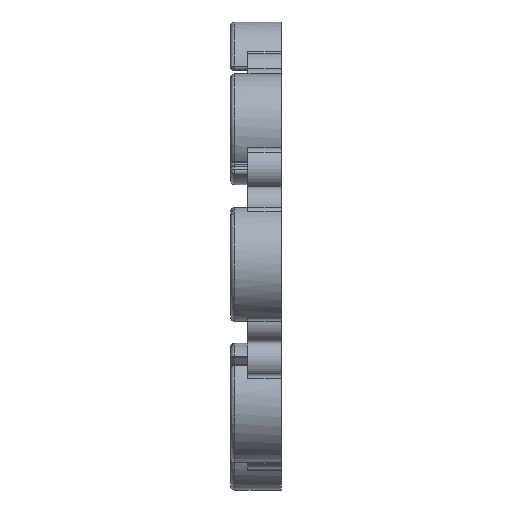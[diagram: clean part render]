
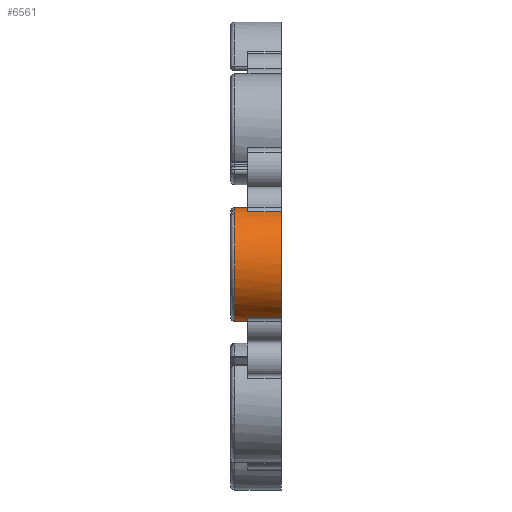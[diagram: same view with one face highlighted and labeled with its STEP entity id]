
A CAD part, left-side view. The second image highlights one B-rep face of the part: STEP entity #6561.
In plain terms, the highlighted cylindrical face has radius 10.763 mm (diameter 21.527 mm), a partial arc.
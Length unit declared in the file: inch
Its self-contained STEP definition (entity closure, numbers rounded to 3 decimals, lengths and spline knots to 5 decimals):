
#73 = CIRCLE ( 'NONE', #10833, 0.42375 ) ;
#1232 = CARTESIAN_POINT ( 'NONE',  ( -1.59065, 0.25, 0.3895 ) ) ;
#2529 = DIRECTION ( 'NONE',  ( 0., -1., 0. ) ) ;
#2734 = ORIENTED_EDGE ( 'NONE', *, *, #27905, .T. ) ;
#2807 = AXIS2_PLACEMENT_3D ( 'NONE', #9498, #25278, #5095 ) ;
#3297 = AXIS2_PLACEMENT_3D ( 'NONE', #21127, #9778, #7579 ) ;
#3709 = VERTEX_POINT ( 'NONE', #14440 ) ;
#4043 = CARTESIAN_POINT ( 'NONE',  ( -1.48204, 0.375, -0.41972 ) ) ;
#4100 = AXIS2_PLACEMENT_3D ( 'NONE', #7732, #27982, #21089 ) ;
#4591 = CARTESIAN_POINT ( 'NONE',  ( -1.48204, 0.34375, 0.41972 ) ) ;
#4649 = EDGE_CURVE ( 'NONE', #14567, #17606, #19097, .T. ) ;
#5095 = DIRECTION ( 'NONE',  ( 0., 0., -1. ) ) ;
#5328 = DIRECTION ( 'NONE',  ( 0., 1., 0. ) ) ;
#5843 = VERTEX_POINT ( 'NONE', #1232 ) ;
#5848 = CARTESIAN_POINT ( 'NONE',  ( -1.59065, 0.375, -0.3895 ) ) ;
#5866 = EDGE_CURVE ( 'NONE', #3709, #14275, #24408, .T. ) ;
#6527 = CARTESIAN_POINT ( 'NONE',  ( -1.48204, 0.25, -0.41972 ) ) ;
#6561 = ADVANCED_FACE ( 'NONE', ( #27245 ), #22948, .T. ) ;
#7245 = DIRECTION ( 'NONE',  ( 0., 1., 0. ) ) ;
#7348 = CARTESIAN_POINT ( 'NONE',  ( -1.59065, 0.375, 0.3895 ) ) ;
#7579 = DIRECTION ( 'NONE',  ( 0., 0., -1. ) ) ;
#7712 = CARTESIAN_POINT ( 'NONE',  ( -1.59065, 0.25, -0.3895 ) ) ;
#7732 = CARTESIAN_POINT ( 'NONE',  ( -1.42375, 0.34375, 0. ) ) ;
#8352 = ORIENTED_EDGE ( 'NONE', *, *, #24043, .T. ) ;
#9498 = CARTESIAN_POINT ( 'NONE',  ( -1.42375, 0.25, 0. ) ) ;
#9778 = DIRECTION ( 'NONE',  ( 0., -1., 0. ) ) ;
#9820 = ORIENTED_EDGE ( 'NONE', *, *, #5866, .T. ) ;
#9898 = CARTESIAN_POINT ( 'NONE',  ( -1.59065, 0., 0.3895 ) ) ;
#10833 = AXIS2_PLACEMENT_3D ( 'NONE', #16204, #2529, #18494 ) ;
#11649 = VERTEX_POINT ( 'NONE', #4591 ) ;
#12523 = DIRECTION ( 'NONE',  ( 0., 0., 1. ) ) ;
#13130 = CIRCLE ( 'NONE', #2807, 0.42375 ) ;
#13769 = VECTOR ( 'NONE', #15634, 39.37008 ) ;
#14275 = VERTEX_POINT ( 'NONE', #6527 ) ;
#14305 = CARTESIAN_POINT ( 'NONE',  ( -1.48204, 0.375, 0.41972 ) ) ;
#14391 = EDGE_CURVE ( 'NONE', #14567, #14275, #73, .T. ) ;
#14440 = CARTESIAN_POINT ( 'NONE',  ( -1.48204, 0.34375, -0.41972 ) ) ;
#14567 = VERTEX_POINT ( 'NONE', #7712 ) ;
#14716 = EDGE_LOOP ( 'NONE', ( #19934, #9820, #19302, #16779, #15322, #2734, #16440, #8352 ) ) ;
#15322 = ORIENTED_EDGE ( 'NONE', *, *, #19380, .T. ) ;
#15634 = DIRECTION ( 'NONE',  ( 0., -1., 0. ) ) ;
#15842 = VECTOR ( 'NONE', #22686, 39.37008 ) ;
#15926 = CARTESIAN_POINT ( 'NONE',  ( -1.48204, 0.25, 0.41972 ) ) ;
#16204 = CARTESIAN_POINT ( 'NONE',  ( -1.42375, 0.25, 0. ) ) ;
#16440 = ORIENTED_EDGE ( 'NONE', *, *, #27292, .T. ) ;
#16452 = CIRCLE ( 'NONE', #21289, 0.42375 ) ;
#16779 = ORIENTED_EDGE ( 'NONE', *, *, #4649, .T. ) ;
#17606 = VERTEX_POINT ( 'NONE', #19816 ) ;
#18494 = DIRECTION ( 'NONE',  ( 0., 0., -1. ) ) ;
#18822 = VERTEX_POINT ( 'NONE', #9898 ) ;
#19097 = LINE ( 'NONE', #5848, #13769 ) ;
#19194 = EDGE_CURVE ( 'NONE', #11649, #3709, #26456, .T. ) ;
#19302 = ORIENTED_EDGE ( 'NONE', *, *, #14391, .F. ) ;
#19380 = EDGE_CURVE ( 'NONE', #17606, #18822, #16452, .T. ) ;
#19816 = CARTESIAN_POINT ( 'NONE',  ( -1.59065, 0., -0.3895 ) ) ;
#19934 = ORIENTED_EDGE ( 'NONE', *, *, #19194, .T. ) ;
#21089 = DIRECTION ( 'NONE',  ( 0., 0., 1. ) ) ;
#21127 = CARTESIAN_POINT ( 'NONE',  ( -1.42375, 0.375, 0. ) ) ;
#21289 = AXIS2_PLACEMENT_3D ( 'NONE', #26180, #28570, #12523 ) ;
#21692 = VERTEX_POINT ( 'NONE', #15926 ) ;
#22007 = VECTOR ( 'NONE', #5328, 39.37008 ) ;
#22373 = LINE ( 'NONE', #7348, #22738 ) ;
#22686 = DIRECTION ( 'NONE',  ( 0., -1., 0. ) ) ;
#22738 = VECTOR ( 'NONE', #7245, 39.37008 ) ;
#22948 = CYLINDRICAL_SURFACE ( 'NONE', #3297, 0.42375 ) ;
#24043 = EDGE_CURVE ( 'NONE', #21692, #11649, #25234, .T. ) ;
#24408 = LINE ( 'NONE', #4043, #15842 ) ;
#25234 = LINE ( 'NONE', #14305, #22007 ) ;
#25278 = DIRECTION ( 'NONE',  ( 0., 1., 0. ) ) ;
#26180 = CARTESIAN_POINT ( 'NONE',  ( -1.42375, 0., 0. ) ) ;
#26456 = CIRCLE ( 'NONE', #4100, 0.42375 ) ;
#27245 = FACE_OUTER_BOUND ( 'NONE', #14716, .T. ) ;
#27292 = EDGE_CURVE ( 'NONE', #5843, #21692, #13130, .T. ) ;
#27905 = EDGE_CURVE ( 'NONE', #18822, #5843, #22373, .T. ) ;
#27982 = DIRECTION ( 'NONE',  ( 0., -1., 0. ) ) ;
#28570 = DIRECTION ( 'NONE',  ( 0., 1., 0. ) ) ;
